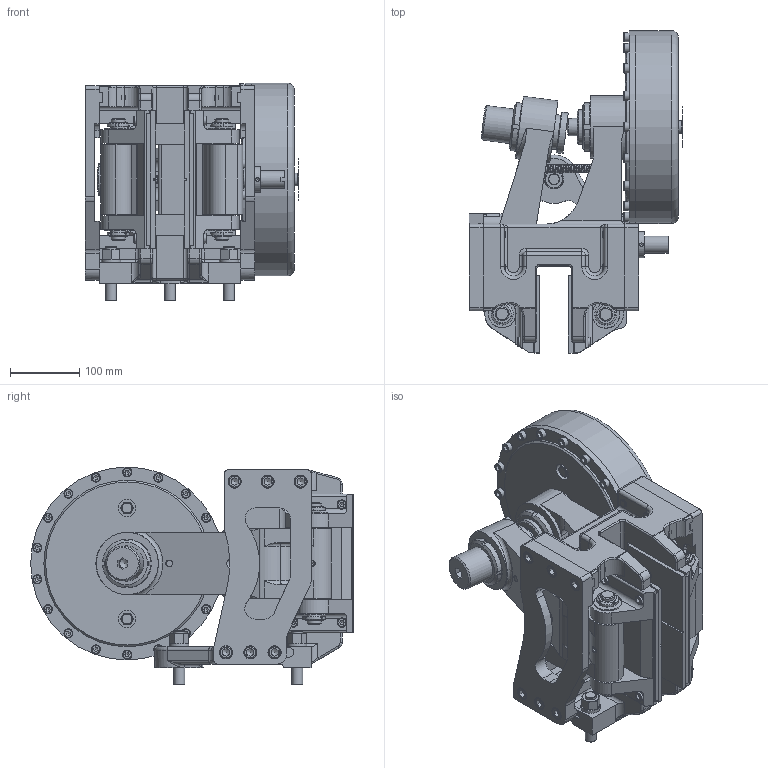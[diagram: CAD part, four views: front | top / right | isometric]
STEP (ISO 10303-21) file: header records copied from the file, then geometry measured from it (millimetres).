
FILE_DESCRIPTION(/* description */ ('','CAx-IF Rec.Pracs.---Representation and Presentation of Product Manufacturing Information (PMI)---4.0---2014-10-13'),/* implementation_level */ '2;1');
FILE_NAME(/* name */ 'X:\INVENTOR\DISEGNI\19_Pinze\STEP x Sito\PNEUM-POSITIVE\19_16_068_06 PPT068_40.stp',/* time_stamp */ '2018-10-25T15:45:36+02:00',/* author */ ('stefano'),/* organization */ (''),/* preprocessor_version */ 'ST-DEVELOPER v17',/* originating_system */ 'Autodesk Inventor 2018',/* authorisation */ '');
FILE_SCHEMA (('AP242_MANAGED_MODEL_BASED_3D_ENGINEERING_MIM_LF { 1 0 10303 442 1 1 4 }'));
Products named in the file (1): 19_16_068_06 PPT068_40_Substitute_2
Bounding box: 307.25 x 465 x 314 mm (x, y, z)
Volume: 12701204.6 mm3; surface area: 1099054.6 mm2
Topology: 1 solids, 1 shells, 1796 faces, 4955 edges, 3220 vertices
Faces by surface type: plane 905, cylinder 479, torus 184, cone 176, bspline 32, sphere 20
Full cylindrical faces by diameter (mm): 1.8 x2, 2.5 x1, 5.25 x4, 7.4 x1, 7.5 x2, 8 x9, 8.376 x1, 8.5 x8, 8.917 x2, 9 x1, 9.188 x1, 10 x2, 10.106 x3, 10.5 x4, 12 x15, 12.5 x12, 13 x27, 13.5 x8, 14 x1, 16 x6, 16.5 x4, 17 x3, 18 x14, 18.631 x1, 19 x12, 19.5 x1, 20 x12, 22 x6, 25 x7, 28 x1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
Entity records: 68807 total; most frequent: CARTESIAN_POINT 21603, ORIENTED_EDGE 9760, DIRECTION 9574, EDGE_CURVE 4880, AXIS2_PLACEMENT_3D 3634, VERTEX_POINT 3220, LINE 2306, VECTOR 2306
